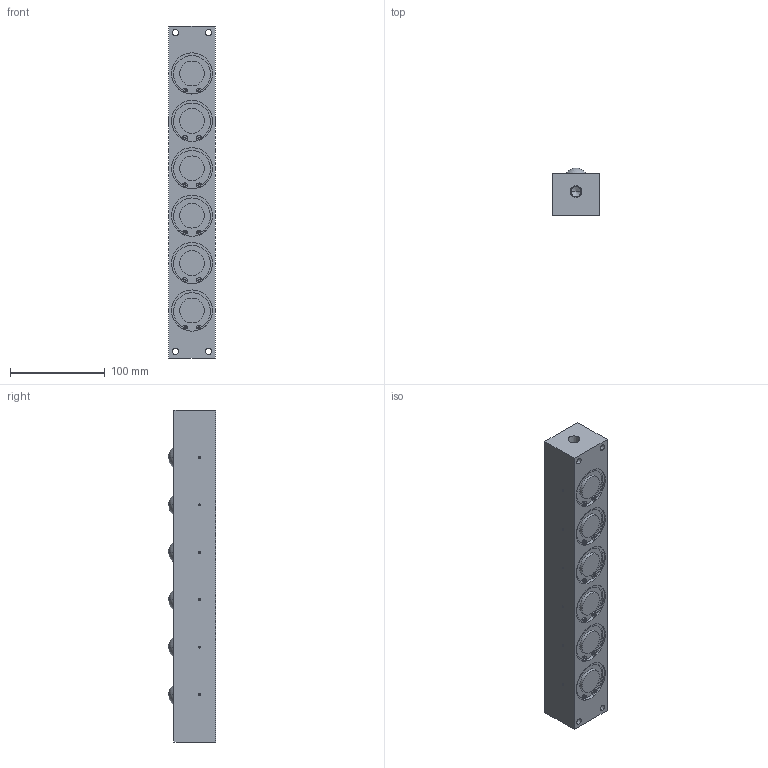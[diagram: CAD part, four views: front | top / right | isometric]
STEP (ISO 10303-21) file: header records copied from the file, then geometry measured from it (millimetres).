
FILE_DESCRIPTION (( 'STEP AP203' ), '1' );
FILE_NAME ('PVL55SW-6.STEP', '2016-01-06T02:13:39', ( '' ), ( '' ), 'SwSTEP 2.0', 'SolidWorks 2013', '' );
FILE_SCHEMA (( 'CONFIG_CONTROL_DESIGN' ));
Length unit declared in the file: millimetre
Products named in the file (1): PVL55SW-6
Bounding box: 49 x 50 x 350 mm (x, y, z)
Volume: 736522.8 mm3; surface area: 90511.7 mm2
Topology: 2 solids, 2 shells, 318 faces, 740 edges, 472 vertices
Faces by surface type: cylinder 190, plane 86, cone 30, sphere 12
Entity records: 9143 total; most frequent: DIRECTION 1770, CARTESIAN_POINT 1503, ORIENTED_EDGE 1424, AXIS2_PLACEMENT_3D 739, EDGE_CURVE 712, VERTEX_POINT 472, CIRCLE 420, EDGE_LOOP 400
